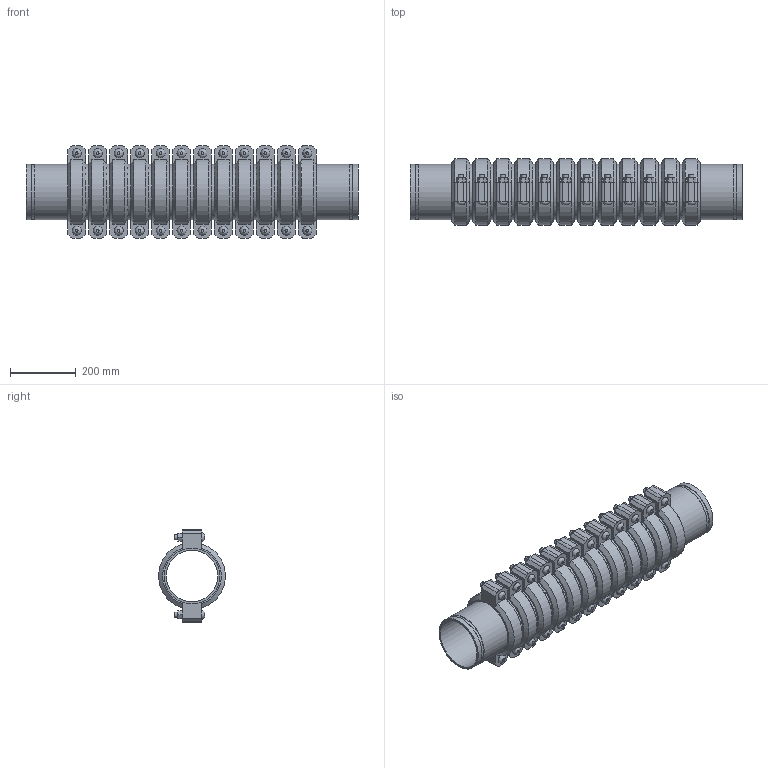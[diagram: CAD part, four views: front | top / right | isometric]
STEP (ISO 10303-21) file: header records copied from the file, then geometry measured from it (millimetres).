
FILE_DESCRIPTION(/* description */ ('VIC SS EXPANSION JOINT 12 COUPLINGS NEUTRAL STYLE 155P (OGS) (POTABLE WATER) ','CAx-IF Rec.Pracs.---Representation and Presentation of Product Manufacturing Information (PMI)---4.0---2014-10-13'),/* implementation_level */ '2;1');
FILE_NAME(/* name */ 'C:\Users\kkamble\AppData\Roaming\Autodesk\ApplicationPlugins\Victaulic.Temp\A871\Victaulic_SS_Expansion Joint_Neutral_12 Couplings_Style 155P (OGS)-Potable Water_12 Coup_Neut_6 (150).stp',/* time_stamp */ '2021-07-16T16:29:57+06:00',/* author */ ('kkamble'),/* organization */ ('Victaulic'),/* preprocessor_version */ 'ST-DEVELOPER v17.2',/* originating_system */ 'Autodesk Inventor 2019',/* authorisation */ '');
FILE_SCHEMA (('AP242_MANAGED_MODEL_BASED_3D_ENGINEERING_MIM_LF { 1 0 10303 442 1 1 4 }'));
Length unit declared in the file: inch
Products named in the file (4): 155P-06.0; Nipple-06.0; Nipple-06.0_1; 075-06.0
Assembly tree (25 placements, depth 2):
  155P-06.0
    Nipple-06.0  x2
    Nipple-06.0_1  x11
    075-06.0  x12
Bounding box: 1007.11 x 202.46 x 281.18 mm (x, y, z)
Volume: 11539013.5 mm3; surface area: 2478937.7 mm2
Topology: 25 solids, 49 shells, 840 faces, 1986 edges, 1392 vertices
Faces by surface type: plane 510, cylinder 258, cone 48, bspline 24
Full cylindrical faces by diameter (mm): 15.875 x48, 17.424 x24, 157.15 x13, 161.925 x12, 163.957 x26, 168.275 x63
Entity records: 2913 total; most frequent: CARTESIAN_POINT 509, DIRECTION 493, ORIENTED_EDGE 386, AXIS2_PLACEMENT_3D 200, EDGE_CURVE 193, VERTEX_POINT 138, EDGE_LOOP 107, LINE 93
